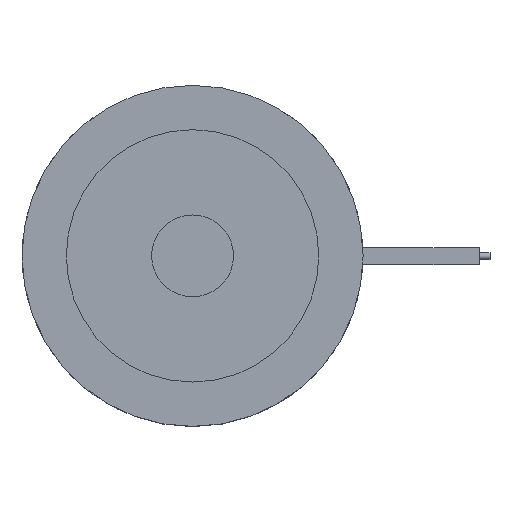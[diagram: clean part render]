
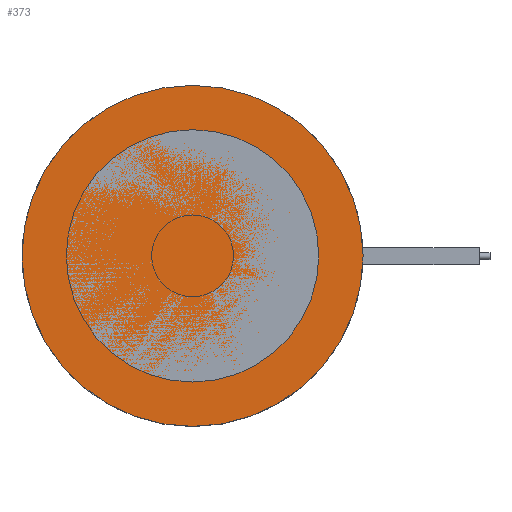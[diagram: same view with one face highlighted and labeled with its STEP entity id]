
A CAD part, top view. The second image highlights one B-rep face of the part: STEP entity #373.
In plain terms, the highlighted planar face has unit normal (0, 0, 1).
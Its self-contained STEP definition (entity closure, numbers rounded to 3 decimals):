
#240=PLANE('',#1196);
#293=FACE_OUTER_BOUND('',#559,.T.);
#373=ADVANCED_FACE('',(#293),#240,.F.);
#559=EDGE_LOOP('',(#789));
#789=ORIENTED_EDGE('',*,*,#1000,.F.);
#884=VERTEX_POINT('',#1986);
#1000=EDGE_CURVE('',#884,#884,#1063,.T.);
#1063=CIRCLE('',#1195,25.);
#1195=AXIS2_PLACEMENT_3D('',#1985,#1500,#1501);
#1196=AXIS2_PLACEMENT_3D('',#1987,#1502,#1503);
#1500=DIRECTION('',(0.,0.,-1.));
#1501=DIRECTION('',(-1.,0.,0.));
#1502=DIRECTION('',(0.,0.,-1.));
#1503=DIRECTION('',(-1.,0.,0.));
#1985=CARTESIAN_POINT('',(0.,0.,0.));
#1986=CARTESIAN_POINT('',(-25.,0.,0.));
#1987=CARTESIAN_POINT('',(0.,0.,0.));
